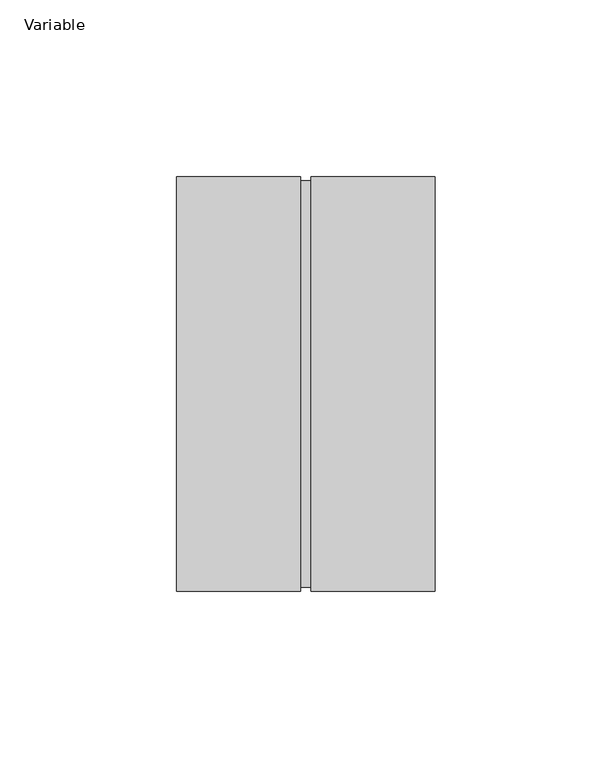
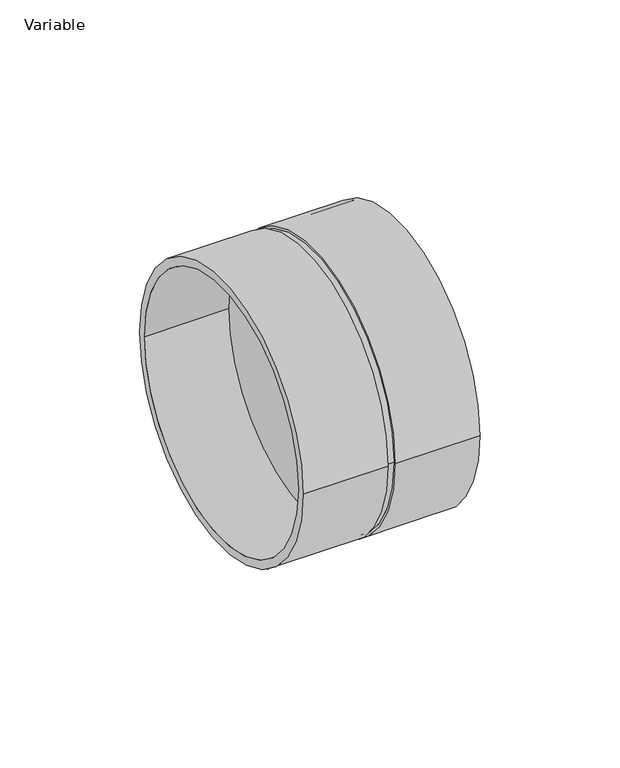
"""IFC4 building model written with IfcOpenShell, lengths in millimetres: pipe fitting geometry, AliaxisFR_Friaphon_RepairCoupling_FR : Variable."""

from ifc_helpers import new_model, si_unit, point, frame, origin, origin_2d, place, context, project, spatial, circle_curve, trimmed, segment, composite_curve, outline, extrude, source, transform, mapped, element, save


def variable_e98c2b5d(model_context):
    return source(origin(), model_context, "Body", "SweptSolid", [
        extrude(outline(composite_curve([segment(trimmed(circle_curve(origin_2d(), 58.5), [point((-58.5, 0.0))], [point((58.5, 0.0))], False, "CARTESIAN"), True, "CONTINUOUS"), segment(trimmed(circle_curve(origin_2d(), 58.5), [point((58.5, 0.0))], [point((-58.5, 0.0))], False, "CARTESIAN"), True, "CONTINUOUS")], self_intersect=False), holes=[composite_curve([segment(trimmed(circle_curve(origin_2d(), 57.5), [point((-57.5, 0.0))], [point((57.5, 0.0))], True, "CARTESIAN"), True, "CONTINUOUS"), segment(trimmed(circle_curve(origin_2d(), 57.5), [point((57.5, 0.0))], [point((-57.5, 0.0))], True, "CARTESIAN"), True, "CONTINUOUS")], self_intersect=False)]), frame((38.0, 0.0, 0.0), z_axis=(1.0, 0.0, 0.0), x_axis=(0.0, 1.0, 0.0)), (0.0, 0.0, 1.0), 35.0),
        extrude(outline(composite_curve([segment(trimmed(circle_curve(origin_2d(), 57.5), [point((-57.5, 0.0))], [point((57.5, 0.0))], False, "CARTESIAN"), True, "CONTINUOUS"), segment(trimmed(circle_curve(origin_2d(), 57.5), [point((57.5, 0.0))], [point((-57.5, 0.0))], False, "CARTESIAN"), True, "CONTINUOUS")], self_intersect=False)), frame((35.0, 0.0, 0.0), z_axis=(1.0, 0.0, 0.0), x_axis=(0.0, 1.0, 0.0)), (0.0, 0.0, 1.0), 3.0),
        extrude(outline(composite_curve([segment(trimmed(circle_curve(origin_2d(), 58.5), [point((-58.5, 0.0))], [point((58.5, 0.0))], False, "CARTESIAN"), True, "CONTINUOUS"), segment(trimmed(circle_curve(origin_2d(), 58.5), [point((58.5, 0.0))], [point((-58.5, 0.0))], False, "CARTESIAN"), True, "CONTINUOUS")], self_intersect=False), holes=[composite_curve([segment(trimmed(circle_curve(origin_2d(), 55.0), [point((-55.0, 0.0))], [point((55.0, 0.0))], True, "CARTESIAN"), True, "CONTINUOUS"), segment(trimmed(circle_curve(origin_2d(), 55.0), [point((55.0, 0.0))], [point((-55.0, 0.0))], True, "CARTESIAN"), True, "CONTINUOUS")], self_intersect=False)]), frame((0.0, 0.0, 0.0), z_axis=(1.0, 0.0, 0.0), x_axis=(0.0, 1.0, 0.0)), (0.0, 0.0, 1.0), 35.0),
    ])


if __name__ == "__main__":
    model = new_model("IFC4")
    model_context = context("Model", 3, world=origin())
    ifc_project = project(units=[si_unit("LENGTHUNIT", "METRE", prefix="MILLI")], contexts=[model_context])
    site = spatial("IfcSite", under=ifc_project)
    building = spatial("IfcBuilding", under=site)
    placement = place(None, origin())
    variable_shape = variable_e98c2b5d(model_context)
    element("IfcPipeFitting", 1, ObjectType="AliaxisFR_Friaphon_RepairCoupling_FR : Variable", at=placement, inside=building, context=model_context, shape_type="MappedRepresentation", body=[
        mapped(variable_shape, transform((0.0, 0.0, 0.0), x_axis=(1.0, 0.0, 0.0), y_axis=(0.0, 1.0, 0.0), z_axis=(0.0, 0.0, 1.0))),
    ])
    save(model, "model.ifc")
